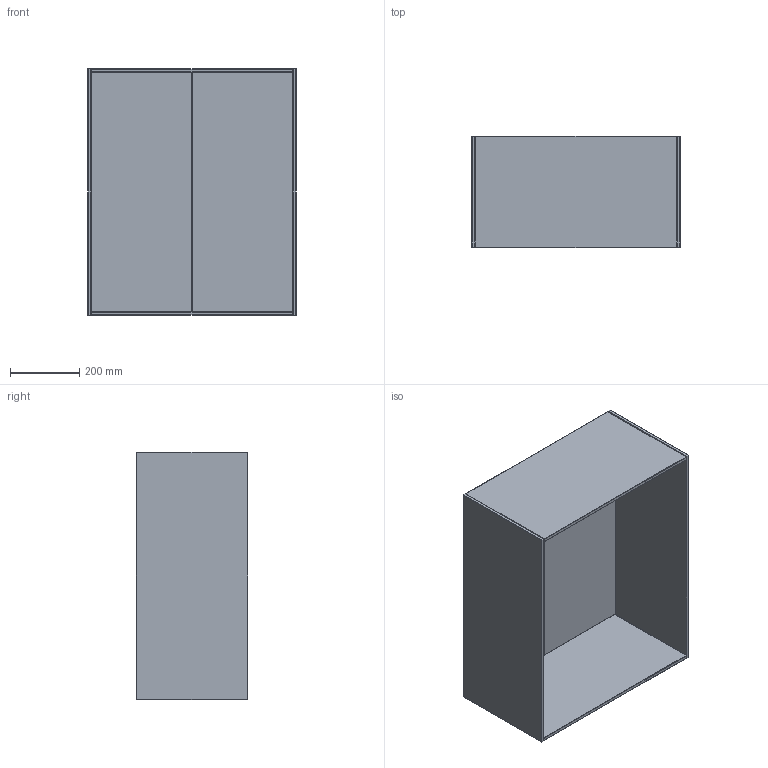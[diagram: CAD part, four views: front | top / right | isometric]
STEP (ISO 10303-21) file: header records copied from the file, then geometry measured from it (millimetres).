
FILE_DESCRIPTION (( 'STEP AP203' ), '1' );
FILE_NAME ('H2-C-60-shell-drawing.STEP', '2024-10-17T07:48:01', ( '' ), ( '' ), 'SwSTEP 2.0', 'SolidWorks 2024', '' );
FILE_SCHEMA (( 'CONFIG_CONTROL_DESIGN' ));
Length unit declared in the file: millimetre
Products named in the file (5): H2-C-60-shell-drawing; Sida-712x320x10; Handtag-690x35x20; Lucka-290x690x10; Topp-Botten-580x320x10
Assembly tree (8 placements, depth 2):
  H2-C-60-shell-drawing
    Handtag-690x35x20  x2
    Lucka-290x690x10  x2
    Sida-712x320x10  x2
    Topp-Botten-580x320x10  x2
Bounding box: 600 x 320 x 712 mm (x, y, z)
Volume: 13092162 mm3; surface area: 2700990.3 mm2
Topology: 8 solids, 8 shells, 208 faces, 448 edges, 192 vertices
Faces by surface type: cylinder 96, sphere 64, plane 48
Entity records: 3135 total; most frequent: DIRECTION 518, CARTESIAN_POINT 403, ORIENTED_EDGE 384, AXIS2_PLACEMENT_3D 211, EDGE_CURVE 192, EDGE_LOOP 104, FACE_OUTER_BOUND 104, ADVANCED_FACE 104
